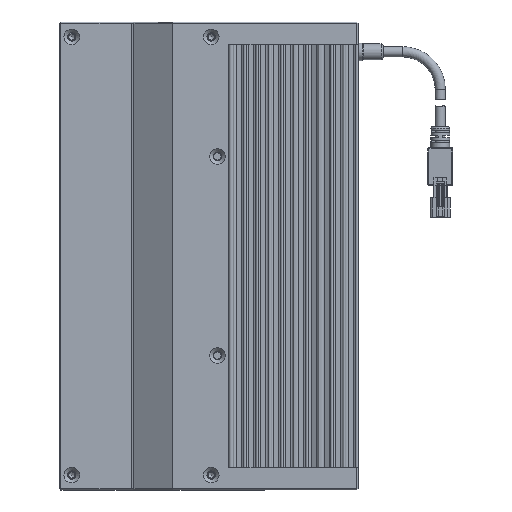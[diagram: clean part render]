
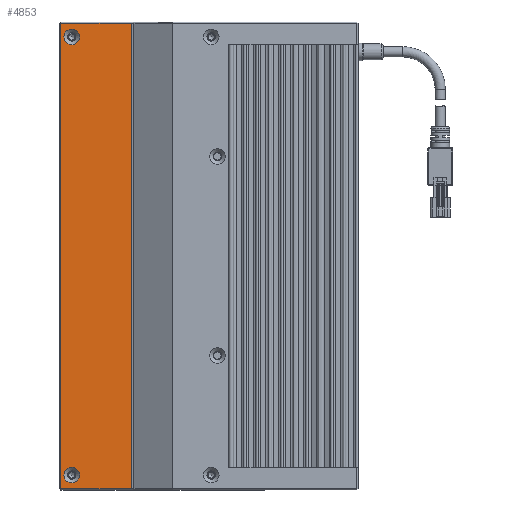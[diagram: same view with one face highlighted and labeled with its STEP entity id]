
A CAD part, left-side view. The second image highlights one B-rep face of the part: STEP entity #4853.
In plain terms, the highlighted planar face has unit normal (-1, 0, 0).
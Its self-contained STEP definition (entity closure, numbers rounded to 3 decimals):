
#396 = ORIENTED_EDGE ( 'NONE', *, *, #12423, .F. ) ;
#669 = LINE ( 'NONE', #16651, #22297 ) ;
#728 = DIRECTION ( 'NONE',  ( 0., 0., 1. ) ) ;
#1268 = EDGE_CURVE ( 'NONE', #27555, #23460, #32223, .T. ) ;
#1822 = VECTOR ( 'NONE', #21278, 1000. ) ;
#1895 = EDGE_LOOP ( 'NONE', ( #24662 ) ) ;
#2408 = VECTOR ( 'NONE', #18927, 1000. ) ;
#2602 = AXIS2_PLACEMENT_3D ( 'NONE', #15614, #18092, #13166 ) ;
#2656 = CARTESIAN_POINT ( 'NONE',  ( -15.462, -6.987, 120. ) ) ;
#3082 = EDGE_CURVE ( 'NONE', #26752, #15307, #19926, .T. ) ;
#4405 = EDGE_CURVE ( 'NONE', #16839, #16839, #6497, .T. ) ;
#4853 = ADVANCED_FACE ( 'NONE', ( #10031, #23742, #27692 ), #20664, .F. ) ;
#5445 = CARTESIAN_POINT ( 'NONE',  ( -15.462, 21.439, 305.5 ) ) ;
#6497 = CIRCLE ( 'NONE', #7037, 3.15 ) ;
#7037 = AXIS2_PLACEMENT_3D ( 'NONE', #30969, #15955, #728 ) ;
#8264 = DIRECTION ( 'NONE',  ( 0., 0., -1. ) ) ;
#9444 = VECTOR ( 'NONE', #10015, 1000. ) ;
#10015 = DIRECTION ( 'NONE',  ( 0., 0., 1. ) ) ;
#10031 = FACE_BOUND ( 'NONE', #22774, .T. ) ;
#11492 = LINE ( 'NONE', #20755, #2408 ) ;
#12423 = EDGE_CURVE ( 'NONE', #15307, #27555, #669, .T. ) ;
#12727 = AXIS2_PLACEMENT_3D ( 'NONE', #20770, #13442, #8264 ) ;
#13166 = DIRECTION ( 'NONE',  ( 0., 0., 1. ) ) ;
#13442 = DIRECTION ( 'NONE',  ( 1., 0., 0. ) ) ;
#13726 = CARTESIAN_POINT ( 'NONE',  ( -15.462, 16.939, 128.65 ) ) ;
#14285 = CARTESIAN_POINT ( 'NONE',  ( -15.462, 21.439, 307. ) ) ;
#14340 = DIRECTION ( 'NONE',  ( 0., 1., 0. ) ) ;
#15307 = VERTEX_POINT ( 'NONE', #2656 ) ;
#15537 = ORIENTED_EDGE ( 'NONE', *, *, #24518, .F. ) ;
#15614 = CARTESIAN_POINT ( 'NONE',  ( -15.462, 16.939, 125.5 ) ) ;
#15955 = DIRECTION ( 'NONE',  ( -1., 0., 0. ) ) ;
#16138 = ORIENTED_EDGE ( 'NONE', *, *, #1268, .F. ) ;
#16651 = CARTESIAN_POINT ( 'NONE',  ( -15.462, -7.561, 120. ) ) ;
#16839 = VERTEX_POINT ( 'NONE', #18107 ) ;
#18092 = DIRECTION ( 'NONE',  ( -1., 0., 0. ) ) ;
#18107 = CARTESIAN_POINT ( 'NONE',  ( -15.462, 16.939, 304.65 ) ) ;
#18927 = DIRECTION ( 'NONE',  ( 0., -1., 0. ) ) ;
#19453 = EDGE_CURVE ( 'NONE', #31358, #31358, #24321, .T. ) ;
#19926 = LINE ( 'NONE', #31298, #1822 ) ;
#20664 = PLANE ( 'NONE',  #12727 ) ;
#20755 = CARTESIAN_POINT ( 'NONE',  ( -15.462, -7.561, 307. ) ) ;
#20770 = CARTESIAN_POINT ( 'NONE',  ( -15.462, -7.561, 305.5 ) ) ;
#21278 = DIRECTION ( 'NONE',  ( 0., 0., -1. ) ) ;
#22297 = VECTOR ( 'NONE', #14340, 1000. ) ;
#22597 = ORIENTED_EDGE ( 'NONE', *, *, #19453, .F. ) ;
#22774 = EDGE_LOOP ( 'NONE', ( #22597 ) ) ;
#23460 = VERTEX_POINT ( 'NONE', #14285 ) ;
#23692 = CARTESIAN_POINT ( 'NONE',  ( -15.462, -6.987, 307. ) ) ;
#23742 = FACE_BOUND ( 'NONE', #1895, .T. ) ;
#24321 = CIRCLE ( 'NONE', #2602, 3.15 ) ;
#24518 = EDGE_CURVE ( 'NONE', #23460, #26752, #11492, .T. ) ;
#24662 = ORIENTED_EDGE ( 'NONE', *, *, #4405, .F. ) ;
#25156 = ORIENTED_EDGE ( 'NONE', *, *, #3082, .F. ) ;
#26752 = VERTEX_POINT ( 'NONE', #23692 ) ;
#27171 = EDGE_LOOP ( 'NONE', ( #16138, #396, #25156, #15537 ) ) ;
#27555 = VERTEX_POINT ( 'NONE', #28650 ) ;
#27692 = FACE_OUTER_BOUND ( 'NONE', #27171, .T. ) ;
#28650 = CARTESIAN_POINT ( 'NONE',  ( -15.462, 21.439, 120. ) ) ;
#30969 = CARTESIAN_POINT ( 'NONE',  ( -15.462, 16.939, 301.5 ) ) ;
#31298 = CARTESIAN_POINT ( 'NONE',  ( -15.462, -6.987, 305.5 ) ) ;
#31358 = VERTEX_POINT ( 'NONE', #13726 ) ;
#32223 = LINE ( 'NONE', #5445, #9444 ) ;
